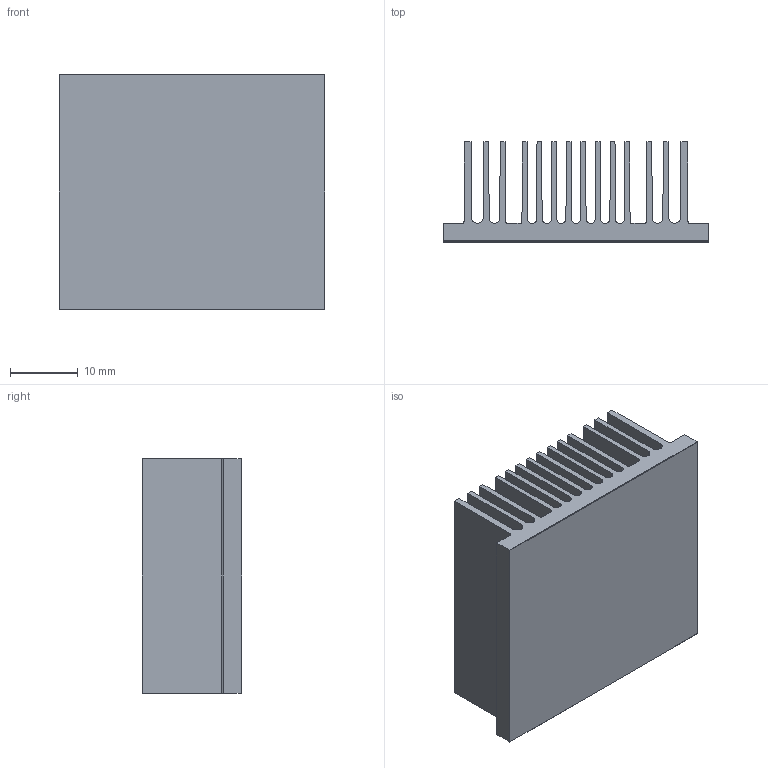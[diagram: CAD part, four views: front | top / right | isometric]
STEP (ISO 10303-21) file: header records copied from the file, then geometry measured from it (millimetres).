
FILE_DESCRIPTION (( 'STEP AP214' ), '1' );
FILE_NAME ('INH40001-15-2.6.STEP', '2023-02-20T19:42:46', ( '' ), ( '' ), 'SwSTEP 2.0', 'SolidWorks 2020', '' );
FILE_SCHEMA (( 'AUTOMOTIVE_DESIGN' ));
Length unit declared in the file: millimetre
Products named in the file (1): INH40001-15-2.6
Bounding box: 39.12 x 14.73 x 34.54 mm (x, y, z)
Volume: 8432.6 mm3; surface area: 17369.5 mm2
Topology: 2 solids, 2 shells, 96 faces, 276 edges, 184 vertices
Faces by surface type: plane 68, cylinder 28
Entity records: 4235 total; most frequent: CARTESIAN_POINT 557, ORIENTED_EDGE 552, DIRECTION 526, EDGE_CURVE 276, VECTOR 220, LINE 220, VERTEX_POINT 184, AXIS2_PLACEMENT_3D 153
